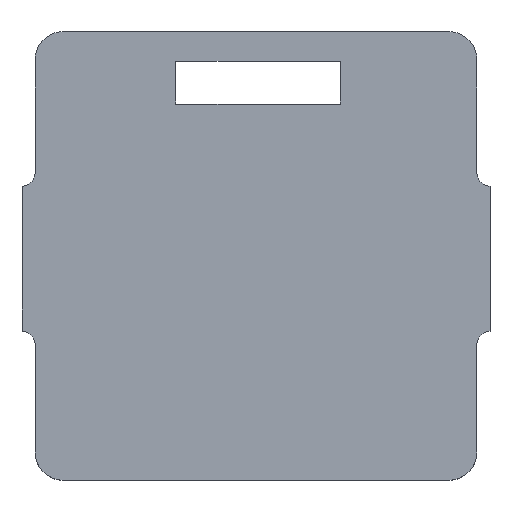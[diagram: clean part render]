
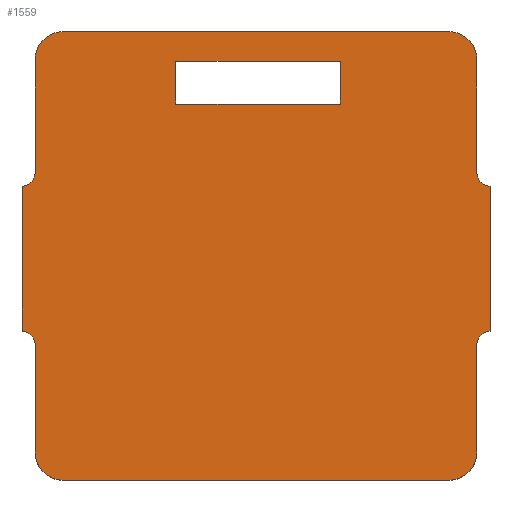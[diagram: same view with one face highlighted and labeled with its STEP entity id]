
A CAD part, top view. The second image highlights one B-rep face of the part: STEP entity #1559.
In plain terms, the highlighted planar face has unit normal (0, 0, 1).
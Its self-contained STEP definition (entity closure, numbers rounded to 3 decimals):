
#33=FACE_BOUND('',#225,.T.);
#68=PLANE('',#1684);
#137=FACE_OUTER_BOUND('',#224,.T.);
#224=EDGE_LOOP('',(#1314,#1315,#1316,#1317,#1318,#1319,#1320,#1321,#1322,
#1323,#1324,#1325,#1326,#1327,#1328,#1329));
#225=EDGE_LOOP('',(#1330,#1331,#1332,#1333));
#262=LINE('',#2189,#424);
#266=LINE('',#2201,#428);
#270=LINE('',#2213,#432);
#275=LINE('',#2233,#437);
#279=LINE('',#2245,#441);
#283=LINE('',#2257,#445);
#289=LINE('',#2288,#451);
#299=LINE('',#2311,#461);
#369=LINE('',#2548,#531);
#372=LINE('',#2554,#534);
#375=LINE('',#2560,#537);
#378=LINE('',#2564,#540);
#424=VECTOR('',#1746,8.151);
#428=VECTOR('',#1758,27.9);
#432=VECTOR('',#1770,8.151);
#437=VECTOR('',#1789,7.751);
#441=VECTOR('',#1801,27.9);
#445=VECTOR('',#1813,7.751);
#451=VECTOR('',#1845,10.5);
#461=VECTOR('',#1861,10.5);
#531=VECTOR('',#2019,11.9);
#534=VECTOR('',#2024,3.1);
#537=VECTOR('',#2029,11.9);
#540=VECTOR('',#2034,3.1);
#583=CIRCLE('',#1595,1.);
#585=CIRCLE('',#1599,2.05);
#587=CIRCLE('',#1603,2.05);
#589=CIRCLE('',#1607,1.);
#591=CIRCLE('',#1610,1.);
#593=CIRCLE('',#1614,2.05);
#595=CIRCLE('',#1618,2.05);
#597=CIRCLE('',#1622,1.);
#644=VERTEX_POINT('',#2179);
#645=VERTEX_POINT('',#2181);
#647=VERTEX_POINT('',#2187);
#649=VERTEX_POINT('',#2193);
#651=VERTEX_POINT('',#2199);
#653=VERTEX_POINT('',#2205);
#655=VERTEX_POINT('',#2211);
#657=VERTEX_POINT('',#2217);
#660=VERTEX_POINT('',#2224);
#661=VERTEX_POINT('',#2226);
#663=VERTEX_POINT('',#2232);
#665=VERTEX_POINT('',#2238);
#667=VERTEX_POINT('',#2244);
#669=VERTEX_POINT('',#2250);
#671=VERTEX_POINT('',#2256);
#673=VERTEX_POINT('',#2262);
#755=VERTEX_POINT('',#2545);
#756=VERTEX_POINT('',#2547);
#758=VERTEX_POINT('',#2553);
#760=VERTEX_POINT('',#2559);
#794=EDGE_CURVE('',#645,#644,#583,.T.);
#798=EDGE_CURVE('',#644,#647,#262,.T.);
#801=EDGE_CURVE('',#647,#649,#585,.T.);
#804=EDGE_CURVE('',#649,#651,#266,.T.);
#807=EDGE_CURVE('',#651,#653,#587,.T.);
#810=EDGE_CURVE('',#653,#655,#270,.T.);
#813=EDGE_CURVE('',#655,#657,#589,.T.);
#816=EDGE_CURVE('',#661,#660,#591,.T.);
#819=EDGE_CURVE('',#663,#661,#275,.T.);
#822=EDGE_CURVE('',#665,#663,#593,.T.);
#825=EDGE_CURVE('',#667,#665,#279,.T.);
#828=EDGE_CURVE('',#669,#667,#595,.T.);
#831=EDGE_CURVE('',#671,#669,#283,.T.);
#834=EDGE_CURVE('',#673,#671,#597,.T.);
#846=EDGE_CURVE('',#645,#660,#289,.T.);
#858=EDGE_CURVE('',#673,#657,#299,.T.);
#947=EDGE_CURVE('',#756,#755,#369,.T.);
#950=EDGE_CURVE('',#758,#756,#372,.T.);
#953=EDGE_CURVE('',#760,#758,#375,.T.);
#956=EDGE_CURVE('',#755,#760,#378,.T.);
#1314=ORIENTED_EDGE('',*,*,#858,.F.);
#1315=ORIENTED_EDGE('',*,*,#834,.T.);
#1316=ORIENTED_EDGE('',*,*,#831,.T.);
#1317=ORIENTED_EDGE('',*,*,#828,.T.);
#1318=ORIENTED_EDGE('',*,*,#825,.T.);
#1319=ORIENTED_EDGE('',*,*,#822,.T.);
#1320=ORIENTED_EDGE('',*,*,#819,.T.);
#1321=ORIENTED_EDGE('',*,*,#816,.T.);
#1322=ORIENTED_EDGE('',*,*,#846,.F.);
#1323=ORIENTED_EDGE('',*,*,#794,.T.);
#1324=ORIENTED_EDGE('',*,*,#798,.T.);
#1325=ORIENTED_EDGE('',*,*,#801,.T.);
#1326=ORIENTED_EDGE('',*,*,#804,.T.);
#1327=ORIENTED_EDGE('',*,*,#807,.T.);
#1328=ORIENTED_EDGE('',*,*,#810,.T.);
#1329=ORIENTED_EDGE('',*,*,#813,.T.);
#1330=ORIENTED_EDGE('',*,*,#947,.T.);
#1331=ORIENTED_EDGE('',*,*,#956,.T.);
#1332=ORIENTED_EDGE('',*,*,#953,.T.);
#1333=ORIENTED_EDGE('',*,*,#950,.T.);
#1559=ADVANCED_FACE('',(#137,#33),#68,.T.);
#1595=AXIS2_PLACEMENT_3D('',#2182,#1739,#1740);
#1599=AXIS2_PLACEMENT_3D('',#2195,#1752,#1753);
#1603=AXIS2_PLACEMENT_3D('',#2207,#1764,#1765);
#1607=AXIS2_PLACEMENT_3D('',#2219,#1776,#1777);
#1610=AXIS2_PLACEMENT_3D('',#2227,#1783,#1784);
#1614=AXIS2_PLACEMENT_3D('',#2239,#1795,#1796);
#1618=AXIS2_PLACEMENT_3D('',#2251,#1807,#1808);
#1622=AXIS2_PLACEMENT_3D('',#2263,#1819,#1820);
#1684=AXIS2_PLACEMENT_3D('',#2595,#2047,#2048);
#1739=DIRECTION('center_axis',(0.,0.,-1.));
#1740=DIRECTION('ref_axis',(1.,0.,0.));
#1746=DIRECTION('',(0.,1.,0.));
#1752=DIRECTION('center_axis',(0.,0.,1.));
#1753=DIRECTION('ref_axis',(1.,0.,0.));
#1758=DIRECTION('',(-1.,0.,0.));
#1764=DIRECTION('center_axis',(0.,0.,1.));
#1765=DIRECTION('ref_axis',(0.,1.,0.));
#1770=DIRECTION('',(0.,-1.,0.));
#1776=DIRECTION('center_axis',(0.,0.,-1.));
#1777=DIRECTION('ref_axis',(-0.05,0.999,0.));
#1783=DIRECTION('center_axis',(0.,0.,-1.));
#1784=DIRECTION('ref_axis',(0.05,-0.999,0.));
#1789=DIRECTION('',(0.,1.,0.));
#1795=DIRECTION('center_axis',(0.,0.,1.));
#1796=DIRECTION('ref_axis',(0.,-1.,0.));
#1801=DIRECTION('',(1.,0.,0.));
#1807=DIRECTION('center_axis',(0.,0.,1.));
#1808=DIRECTION('ref_axis',(-1.,0.,0.));
#1813=DIRECTION('',(0.,-1.,0.));
#1819=DIRECTION('center_axis',(0.,0.,-1.));
#1820=DIRECTION('ref_axis',(-1.,0.,0.));
#1845=DIRECTION('',(0.,-1.,0.));
#1861=DIRECTION('',(0.,1.,0.));
#2019=DIRECTION('',(1.,0.,0.));
#2024=DIRECTION('',(0.,1.,0.));
#2029=DIRECTION('',(-1.,0.,0.));
#2034=DIRECTION('',(0.,-1.,0.));
#2047=DIRECTION('center_axis',(0.,0.,1.));
#2048=DIRECTION('ref_axis',(1.,0.,0.));
#2179=CARTESIAN_POINT('',(16.,6.049,7.8));
#2181=CARTESIAN_POINT('',(16.95,5.05,7.8));
#2182=CARTESIAN_POINT('Origin',(17.,6.049,7.8));
#2187=CARTESIAN_POINT('',(16.,14.2,7.8));
#2189=CARTESIAN_POINT('',(16.,6.049,7.8));
#2193=CARTESIAN_POINT('',(13.95,16.25,7.8));
#2195=CARTESIAN_POINT('Origin',(13.95,14.2,7.8));
#2199=CARTESIAN_POINT('',(-13.95,16.25,7.8));
#2201=CARTESIAN_POINT('',(13.95,16.25,7.8));
#2205=CARTESIAN_POINT('',(-16.,14.2,7.8));
#2207=CARTESIAN_POINT('Origin',(-13.95,14.2,7.8));
#2211=CARTESIAN_POINT('',(-16.,6.049,7.8));
#2213=CARTESIAN_POINT('',(-16.,14.2,7.8));
#2217=CARTESIAN_POINT('',(-16.95,5.05,7.8));
#2219=CARTESIAN_POINT('Origin',(-17.,6.049,7.8));
#2224=CARTESIAN_POINT('',(16.95,-5.45,7.8));
#2226=CARTESIAN_POINT('',(16.,-6.449,7.8));
#2227=CARTESIAN_POINT('Origin',(17.,-6.449,7.8));
#2232=CARTESIAN_POINT('',(16.,-14.2,7.8));
#2233=CARTESIAN_POINT('',(16.,-14.2,7.8));
#2238=CARTESIAN_POINT('',(13.95,-16.25,7.8));
#2239=CARTESIAN_POINT('Origin',(13.95,-14.2,7.8));
#2244=CARTESIAN_POINT('',(-13.95,-16.25,7.8));
#2245=CARTESIAN_POINT('',(-13.95,-16.25,7.8));
#2250=CARTESIAN_POINT('',(-16.,-14.2,7.8));
#2251=CARTESIAN_POINT('Origin',(-13.95,-14.2,7.8));
#2256=CARTESIAN_POINT('',(-16.,-6.449,7.8));
#2257=CARTESIAN_POINT('',(-16.,-6.449,7.8));
#2262=CARTESIAN_POINT('',(-16.95,-5.45,7.8));
#2263=CARTESIAN_POINT('Origin',(-17.,-6.449,7.8));
#2288=CARTESIAN_POINT('',(16.95,5.05,7.8));
#2311=CARTESIAN_POINT('',(-16.95,-5.45,7.8));
#2545=CARTESIAN_POINT('',(6.1,14.1,7.8));
#2547=CARTESIAN_POINT('',(-5.8,14.1,7.8));
#2548=CARTESIAN_POINT('',(2.8,14.1,7.8));
#2553=CARTESIAN_POINT('',(-5.8,11.,7.8));
#2554=CARTESIAN_POINT('',(-5.8,5.5,7.8));
#2559=CARTESIAN_POINT('',(6.1,11.,7.8));
#2560=CARTESIAN_POINT('',(3.05,11.,7.8));
#2564=CARTESIAN_POINT('',(6.1,7.05,7.8));
#2595=CARTESIAN_POINT('Origin',(0.,0.,
7.8));
